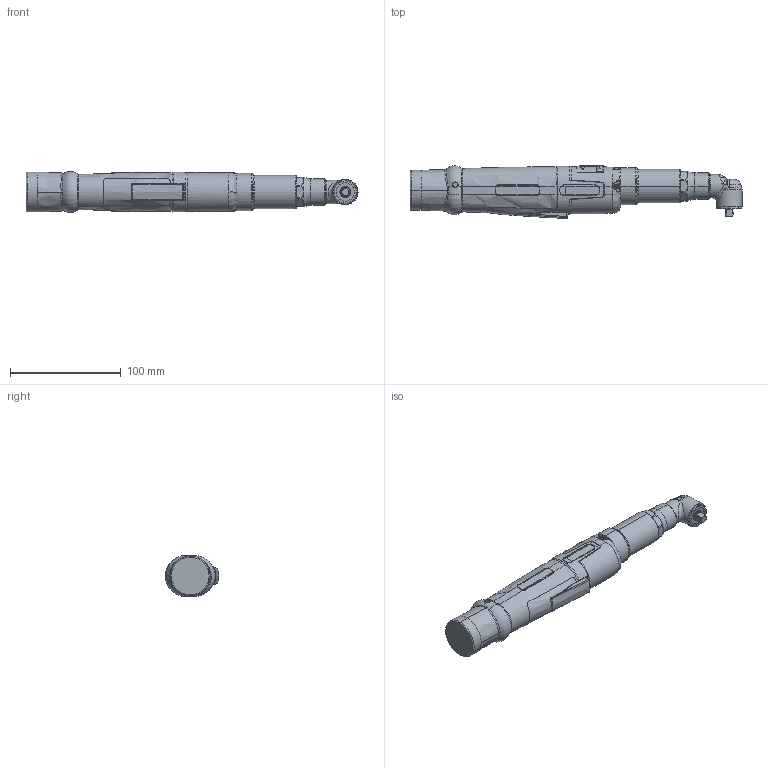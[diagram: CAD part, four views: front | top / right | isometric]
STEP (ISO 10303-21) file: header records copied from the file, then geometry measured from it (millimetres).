
FILE_DESCRIPTION (( 'STEP AP214' ), '1' );
FILE_NAME ('70141262_HSXK1015WV14.STEP', '2021-12-22T06:55:48', ( '' ), ( '' ), 'SwSTEP 2.0', 'SolidWorks 2020', '' );
FILE_SCHEMA (( 'AUTOMOTIVE_DESIGN' ));
Length unit declared in the file: millimetre
Products named in the file (5): 70141115; 70141200; 70141262_HSXK1015WV14; 70141212; 70141221
Assembly tree (4 placements, depth 2):
  70141262_HSXK1015WV14
    70141200
    70141212
    70141115
    70141221
Bounding box: 299.5 x 47.98 x 37 mm (x, y, z)
Volume: 288376.6 mm3; surface area: 50635.2 mm2
Topology: 4 solids, 5 shells, 941 faces, 2353 edges, 1447 vertices
Faces by surface type: cylinder 308, bspline 255, plane 194, torus 89, cone 66, sphere 29
Entity records: 46122 total; most frequent: CARTESIAN_POINT 25321, ORIENTED_EDGE 4666, DIRECTION 3844, EDGE_CURVE 2333, AXIS2_PLACEMENT_3D 1614, VERTEX_POINT 1445, EDGE_LOOP 988, FACE_OUTER_BOUND 941
